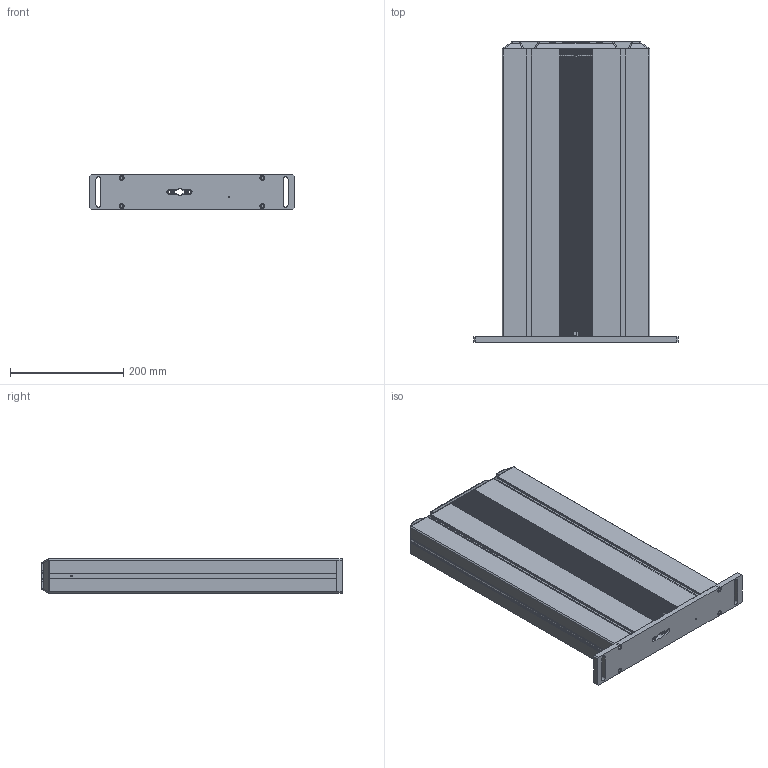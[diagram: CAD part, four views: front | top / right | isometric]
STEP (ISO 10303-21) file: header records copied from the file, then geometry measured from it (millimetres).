
FILE_DESCRIPTION(/* description */ ('Unknown'),/* implementation_level */ '2;1');
FILE_NAME(/* name */ '901.01111_01-eingefahren',/* time_stamp */ '2026-07-01T14:15:12+02:00',/* author */ ('Unknown'),/* organization */ ('Unknown'),/* preprocessor_version */ 'ST-DEVELOPER v20',/* originating_system */ 'Solid Edge',/* authorisation */ 'Unknown');
FILE_SCHEMA (('AUTOMOTIVE_DESIGN {1 0 10303 214 3 1 1}'));
Products named in the file (10): 901.01111; 126.00137; 119.00379; 119.00378; 142.00166; 124.00201_oa_0; 142.00241; 110.00116_oa_1; 115.00200_oa_2; 128.00090
Assembly tree (13 placements, depth 2):
  901.01111
    126.00137
    119.00379
    119.00378
    142.00166  x4
    124.00201_oa_0
    142.00241  x2
    110.00116_oa_1
    115.00200_oa_2
    128.00090
Bounding box: 360 x 530 x 60 mm (x, y, z)
Volume: 2730821.3 mm3; surface area: 1636507.8 mm2
Topology: 10 solids, 10 shells, 1809 faces, 5310 edges, 3537 vertices
Faces by surface type: plane 958, cylinder 830, torus 10, cone 7, bspline 4
Full cylindrical faces by diameter (mm): 2.459 x1, 3.242 x4, 3.4 x1, 4 x2, 5 x4, 5.5 x4, 7 x2, 8.5 x4, 8.7 x4, 30 x2
Entity records: 70493 total; most frequent: CARTESIAN_POINT 11087, ORIENTED_EDGE 10304, DIRECTION 10143, EDGE_CURVE 5152, VERTEX_POINT 3448, AXIS2_PLACEMENT_3D 3427, LINE 3289, VECTOR 3289
